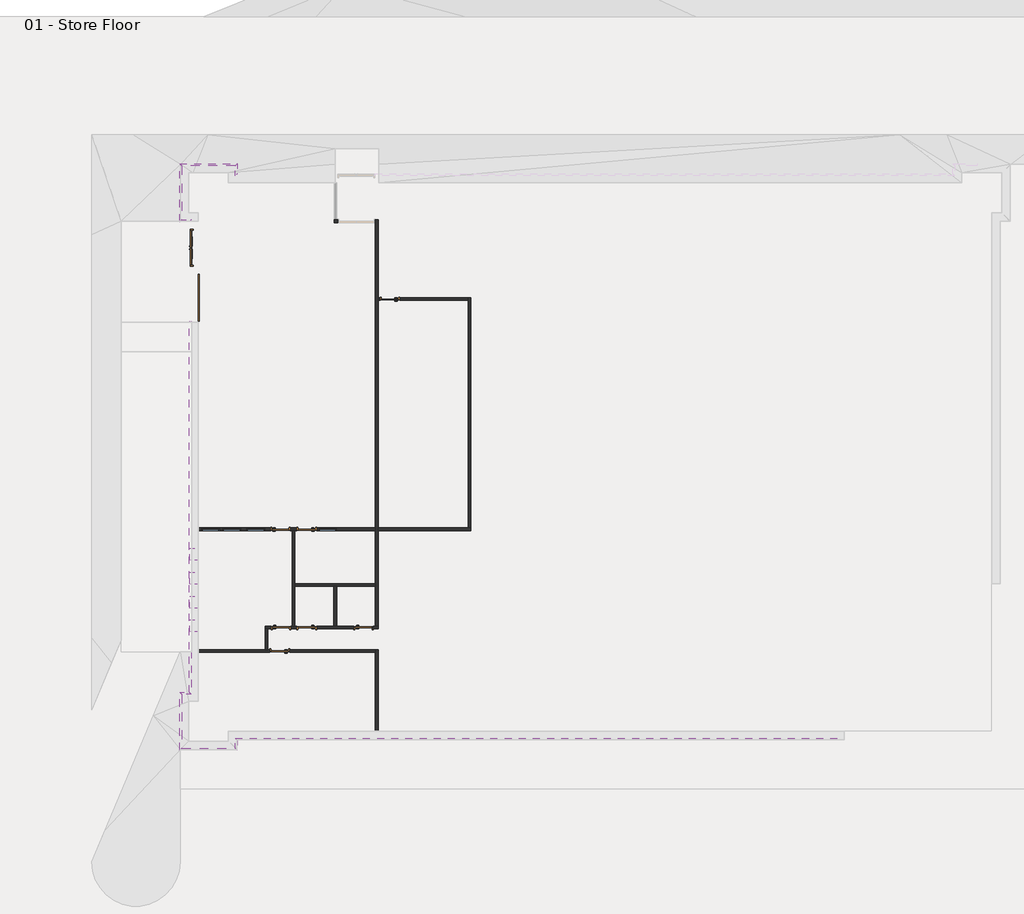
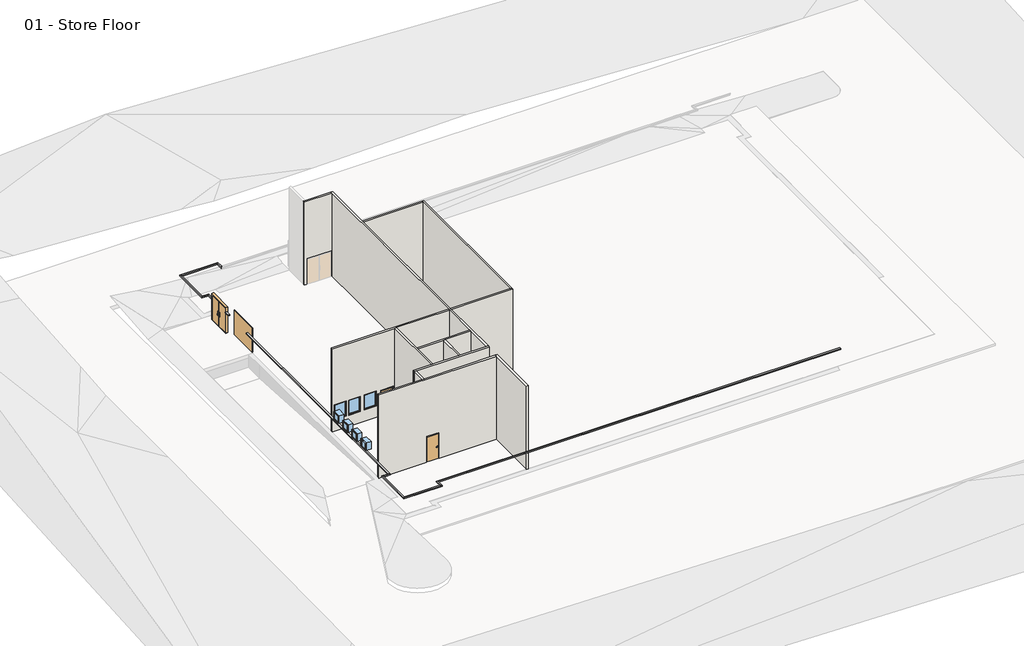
# One storey, part 1 of 2: 12 walls, 10 proxies, 9 doors, 8 windows.
"""IFC4 building model written with IfcOpenShell, lengths in millimetres."""

from ifc_helpers import new_model, si_unit, frame, origin, origin_with_axes, place, context, project, spatial, polyline, outline, extrude, faceted_brep, transform, mapped, element, save
from components import m_door_exterior_double_1800_x_2000mm_bb9cb4d2, m_door_overhead_sectional_2400_x_2000mm_2e2bb5a0, m_door_passage_single_flush_900_x_2000mm_14e2eb9a, m_door_passage_single_flush_900_x_2000mm_70bd3cdf, m_fixed_0915_x_1220mm_bac45195, m_fixed_610_x_610mm_e5dd5360

model = new_model("IFC4")

# Units and contexts
model_context = context("Model", 3, world=origin())
ifc_project = project(units=[si_unit("LENGTHUNIT", "METRE", prefix="MILLI")], contexts=[model_context])

# Site, building, storey
site = spatial("IfcSite", under=ifc_project)
building = spatial("IfcBuilding", under=site)
storey = spatial("IfcBuildingStorey", under=building, Name="01 - Store Floor", Elevation=0.0)

# Proxies
placement = place(None, origin())
element("IfcBuildingElementProxy", 1, Name="Reveals", at=placement, inside=storey, context=model_context, shape_type="SweptSolid", body=[
    extrude(outline(polyline([(10855.5272279, -14331.9313057), (10855.5272279, -14434.4313057), (-20003.9727721, -14434.4313057), (-20106.4727721, -14331.9313057), (10855.5272279, -14331.9313057)])), frame((0.0, 0.0, 1675.0), z_axis=(0.0, 0.0, 1.0), x_axis=(1.0, 0.0, 0.0)), (0.0, 0.0, 1.0), 75.0),
])
element("IfcBuildingElementProxy", 2, Name="Reveals", at=placement, inside=storey, context=model_context, shape_type="SweptSolid", body=[
    extrude(outline(polyline([(-20106.4727721, -14331.9313057), (-20003.9727721, -14434.4313057), (-20003.9727721, -14934.2313057), (-20106.4727721, -14831.7313057), (-20106.4727721, -14331.9313057)])), frame((0.0, 0.0, 1675.0), z_axis=(0.0, 0.0, 1.0), x_axis=(1.0, 0.0, 0.0)), (0.0, 0.0, 1.0), 75.0),
])
element("IfcBuildingElementProxy", 3, Name="Reveals", at=placement, inside=storey, context=model_context, shape_type="SweptSolid", body=[
    extrude(outline(polyline([(-20106.4727721, -14831.7313057), (-20003.9727721, -14934.2313057), (-22946.9727721, -14934.2313057), (-22844.4727721, -14831.7313057), (-20106.4727721, -14831.7313057)])), frame((0.0, 0.0, 1675.0), z_axis=(0.0, 0.0, 1.0), x_axis=(1.0, 0.0, 0.0)), (0.0, 0.0, 1.0), 75.0),
])
element("IfcBuildingElementProxy", 4, Name="Reveals", at=placement, inside=storey, context=model_context, shape_type="SweptSolid", body=[
    extrude(outline(polyline([(-22844.4727721, -14831.7313057), (-22946.9727721, -14934.2313057), (-22946.9727721, -11991.2313057), (-22844.4727721, -12093.7313057), (-22844.4727721, -14831.7313057)])), frame((0.0, 0.0, 1675.0), z_axis=(0.0, 0.0, 1.0), x_axis=(1.0, 0.0, 0.0)), (0.0, 0.0, 1.0), 75.0),
])
element("IfcBuildingElementProxy", 5, Name="Reveals", at=placement, inside=storey, context=model_context, shape_type="SweptSolid", body=[
    extrude(outline(polyline([(-22844.4727721, -12093.7313057), (-22946.9727721, -11991.2313057), (-22446.9727721, -11991.2313057), (-22344.4727721, -12093.7313057), (-22844.4727721, -12093.7313057)])), frame((0.0, 0.0, 1675.0), z_axis=(0.0, 0.0, 1.0), x_axis=(1.0, 0.0, 0.0)), (0.0, 0.0, 1.0), 75.0),
])
element("IfcBuildingElementProxy", 6, Name="Reveals", at=placement, inside=storey, context=model_context, shape_type="SweptSolid", body=[
    extrude(outline(polyline([(-22344.4727721, 11555.0686943), (-22446.9727721, 11555.0686943), (-22446.9727721, 11927.5686943), (-22344.4727721, 12030.0686943), (-22344.4727721, 11555.0686943)])), frame((0.0, 0.0, 1675.0), z_axis=(0.0, 0.0, 1.0), x_axis=(1.0, 0.0, 0.0)), (0.0, 0.0, 1.0), 75.0),
    extrude(outline(polyline([(-22344.4727721, 9255.0686943), (-22446.9727721, 9255.0686943), (-22446.9727721, 9655.0686943), (-22344.4727721, 9655.0686943), (-22344.4727721, 9255.0686943)])), frame((0.0, 0.0, 1675.0), z_axis=(0.0, 0.0, 1.0), x_axis=(1.0, 0.0, 0.0)), (0.0, 0.0, 1.0), 75.0),
    extrude(outline(polyline([(-22344.4727721, -12093.7313057), (-22446.9727721, -11991.2313057), (-22446.9727721, 6855.0686943), (-22344.4727721, 6855.0686943), (-22344.4727721, -12093.7313057)])), frame((0.0, 0.0, 1675.0), z_axis=(0.0, 0.0, 1.0), x_axis=(1.0, 0.0, 0.0)), (0.0, 0.0, 1.0), 75.0),
])
element("IfcBuildingElementProxy", 7, Name="Reveals", at=placement, inside=storey, context=model_context, shape_type="SweptSolid", body=[
    extrude(outline(polyline([(-22344.4727721, 12030.0686943), (-22446.9727721, 11927.5686943), (-22946.9727721, 11927.5686943), (-22844.4727721, 12030.0686943), (-22344.4727721, 12030.0686943)])), frame((0.0, 0.0, 1675.0), z_axis=(0.0, 0.0, 1.0), x_axis=(1.0, 0.0, 0.0)), (0.0, 0.0, 1.0), 75.0),
])
element("IfcBuildingElementProxy", 8, Name="Reveals", at=placement, inside=storey, context=model_context, shape_type="SweptSolid", body=[
    extrude(outline(polyline([(-22844.4727721, 12030.0686943), (-22946.9727721, 11927.5686943), (-22946.9727721, 14870.5686943), (-22844.4727721, 14768.0686943), (-22844.4727721, 12030.0686943)])), frame((0.0, 0.0, 1675.0), z_axis=(0.0, 0.0, 1.0), x_axis=(1.0, 0.0, 0.0)), (0.0, 0.0, 1.0), 75.0),
])
element("IfcBuildingElementProxy", 9, Name="Reveals", at=placement, inside=storey, context=model_context, shape_type="SweptSolid", body=[
    extrude(outline(polyline([(-22844.4727721, 14768.0686943), (-22946.9727721, 14870.5686943), (-20003.9727721, 14870.5686943), (-20106.4727721, 14768.0686943), (-22844.4727721, 14768.0686943)])), frame((0.0, 0.0, 1675.0), z_axis=(0.0, 0.0, 1.0), x_axis=(1.0, 0.0, 0.0)), (0.0, 0.0, 1.0), 75.0),
])
element("IfcBuildingElementProxy", 10, Name="Reveals", at=placement, inside=storey, context=model_context, shape_type="SweptSolid", body=[
    extrude(outline(polyline([(-20106.4727721, 14768.0686943), (-20003.9727721, 14870.5686943), (-20003.9727721, 14370.5686943), (-20106.4727721, 14268.0686943), (-20106.4727721, 14768.0686943)])), frame((0.0, 0.0, 1675.0), z_axis=(0.0, 0.0, 1.0), x_axis=(1.0, 0.0, 0.0)), (0.0, 0.0, 1.0), 75.0),
])

# Doors
m_door_exterior_double_1800_x_2000mm_shape = m_door_exterior_double_1800_x_2000mm_bb9cb4d2(model_context)
element("IfcDoor", 11, ObjectType="M_Door-Exterior-Double : 1800 x 2000mm", at=placement, inside=storey, context=model_context, shape_type="MappedRepresentation", body=[
    mapped(m_door_exterior_double_1800_x_2000mm_shape, transform((-22198.6227721, 10605.0686943, 0.0), x_axis=(0.0, 1.0, 0.0), y_axis=(-1.0, 0.0, 0.0), z_axis=(0.0, 0.0, 1.0))),
])
m_door_overhead_sectional_2400_x_2000mm_shape = m_door_overhead_sectional_2400_x_2000mm_2e2bb5a0(model_context)
element("IfcDoor", 12, ObjectType="M_Door-Overhead-Sectional : 2400 x 2000mm", at=placement, inside=storey, context=model_context, shape_type="MappedRepresentation", body=[
    mapped(m_door_overhead_sectional_2400_x_2000mm_shape, transform((-22204.9727721, 8055.0686943, 0.0), x_axis=(0.0, 1.0, 0.0), y_axis=(-1.0, 0.0, 0.0), z_axis=(0.0, 0.0, 1.0))),
])
m_door_passage_single_flush_900_x_2000mm_shape = m_door_passage_single_flush_900_x_2000mm_14e2eb9a(model_context)
element("IfcDoor", 13, ObjectType="M_Door-Passage-Single-Flush : 900 x 2000mm", at=placement, inside=storey, context=model_context, shape_type="MappedRepresentation", body=[
    mapped(m_door_passage_single_flush_900_x_2000mm_shape, transform((-17819.4727721, -3700.5813057, 0.0), x_axis=(1.0, 0.0, 0.0), y_axis=(0.0, 1.0, 0.0), z_axis=(0.0, 0.0, 1.0))),
])
element("IfcDoor", 14, ObjectType="M_Door-Passage-Single-Flush : 900 x 2000mm", at=placement, inside=storey, context=model_context, shape_type="MappedRepresentation", body=[
    mapped(m_door_passage_single_flush_900_x_2000mm_shape, transform((-16480.9727721, -8713.2813057, 0.0), x_axis=(-1.0, 0.0, 0.0), y_axis=(0.0, -1.0, 0.0), z_axis=(0.0, 0.0, 1.0))),
])
m_door_passage_single_flush_900_x_2000mm_2_shape = m_door_passage_single_flush_900_x_2000mm_70bd3cdf(model_context)
element("IfcDoor", 15, ObjectType="M_Door-Passage-Single-Flush : 900 x 2000mm", at=placement, inside=storey, context=model_context, shape_type="MappedRepresentation", body=[
    mapped(m_door_passage_single_flush_900_x_2000mm_2_shape, transform((-16480.9727721, -3700.5813057, 0.0), x_axis=(-1.0, 0.0, 0.0), y_axis=(0.0, -1.0, 0.0), z_axis=(0.0, 0.0, 1.0))),
])
element("IfcDoor", 16, ObjectType="M_Door-Passage-Single-Flush : 900 x 2000mm", at=placement, inside=storey, context=model_context, shape_type="MappedRepresentation", body=[
    mapped(m_door_passage_single_flush_900_x_2000mm_2_shape, transform((-13588.7227721, -8713.2813057, 0.0), x_axis=(1.0, 0.0, 0.0), y_axis=(0.0, 1.0, 0.0), z_axis=(0.0, 0.0, 1.0))),
])
element("IfcDoor", 17, ObjectType="M_Door-Passage-Single-Flush : 900 x 2000mm", at=placement, inside=storey, context=model_context, shape_type="MappedRepresentation", body=[
    mapped(m_door_passage_single_flush_900_x_2000mm_2_shape, transform((-17795.5977721, -8713.2813057, 0.0), x_axis=(1.0, 0.0, 0.0), y_axis=(0.0, 1.0, 0.0), z_axis=(0.0, 0.0, 1.0))),
])
element("IfcDoor", 18, ObjectType="M_Door-Passage-Single-Flush : 900 x 2000mm", at=placement, inside=storey, context=model_context, shape_type="MappedRepresentation", body=[
    mapped(m_door_passage_single_flush_900_x_2000mm_2_shape, transform((-17850.2227721, -9889.0813057, 0.0), x_axis=(-1.0, 0.0, 0.0), y_axis=(0.0, -1.0, 0.0), z_axis=(0.0, 0.0, 1.0))),
])
element("IfcDoor", 19, ObjectType="M_Door-Passage-Single-Flush : 900 x 2000mm", at=placement, inside=storey, context=model_context, shape_type="MappedRepresentation", body=[
    mapped(m_door_passage_single_flush_900_x_2000mm_2_shape, transform((-12250.2227721, 7999.4186943, 0.0), x_axis=(-1.0, 0.0, 0.0), y_axis=(0.0, -1.0, 0.0), z_axis=(0.0, 0.0, 1.0))),
])

# Walls
element("IfcWall", 20, ObjectType="Interior - 138mm Partition (1-hr)", at=placement, inside=storey, context=model_context, shape_type="Brep", body=[
    faceted_brep([(-12850.2227721, -13977.9313057, 0.0), (-12850.2227721, -9826.1813057, 0.0), (-12850.2227721, -9826.1813057, 6750.0), (-12850.2227721, -13977.9313057, 6750.0), (-12988.7227721, -13977.9313057, 0.0), (-12988.7227721, -13977.9313057, 6750.0), (-12988.7227721, -9964.6813057, 6750.0), (-12988.7227721, -9826.1813057, 6750.0), (-12988.7227721, -9826.1813057, 0.0), (-12988.7227721, -9964.6813057, 0.0)], [[[0, 1, 2, 3]], [[4, 5, 6, 7, 8, 9]], [[1, 0, 4, 9, 8]], [[0, 3, 5, 4]], [[2, 1, 8, 7]], [[3, 2, 7, 6, 5]]]),
])
element("IfcWall", 21, ObjectType="Interior - 138mm Partition (1-hr)", at=placement, inside=storey, context=model_context, shape_type="Brep", body=[
    faceted_brep([(-12988.7227721, 12024.3186943, 6750.0), (-12988.7227721, 12024.3186943, 0.0), (-13009.9477721, 12024.3186943, 0.0), (-13009.9477721, 12024.3186943, 2100.0), (-14909.9477721, 12024.3186943, 2100.0), (-14909.9477721, 12024.3186943, 0.0), (-14950.2227721, 12024.3186943, 0.0), (-15088.7227721, 12024.3186943, 0.0), (-15088.7227721, 12024.3186943, 6750.0), (-14950.2227721, 12024.3186943, 6750.0), (-12988.7227721, 11885.8186943, 0.0), (-12988.7227721, 11885.8186943, 6750.0), (-15088.7227721, 11885.8186943, 6750.0), (-15088.7227721, 11885.8186943, 0.0), (-14909.9477721, 11885.8186943, 0.0), (-14909.9477721, 11885.8186943, 2100.0), (-13009.9477721, 11885.8186943, 2100.0), (-13009.9477721, 11885.8186943, 0.0)], [[[0, 1, 2, 3, 4, 5, 6, 7, 8, 9]], [[10, 11, 12, 13, 14, 15, 16, 17]], [[1, 10, 17, 2]], [[13, 7, 6, 5, 14]], [[1, 0, 11, 10]], [[8, 7, 13, 12]], [[0, 9, 8, 12, 11]], [[4, 15, 14, 5]], [[15, 4, 3, 16]], [[16, 3, 2, 17]]]),
])
element("IfcWall", 22, ObjectType="Interior - 138mm Partition (1-hr)", at=placement, inside=storey, context=model_context, shape_type="Brep", body=[
    faceted_brep([(-18588.7227721, -8637.6813057, 0.0), (-18588.7227721, -8637.6813057, 6750.0), (-17219.4727721, -8637.6813057, 6750.0), (-17080.9727721, -8637.6813057, 6750.0), (-15104.0977721, -8637.6813057, 6750.0), (-14965.5977721, -8637.6813057, 6750.0), (-12988.7227721, -8637.6813057, 6750.0), (-12850.2227721, -8637.6813057, 6750.0), (-12850.2227721, -8637.6813057, 0.0), (-12988.7227721, -8637.6813057, 0.0), (-13088.7227721, -8637.6813057, 0.0), (-13088.7227721, -8637.6813057, 2100.0), (-14088.7227721, -8637.6813057, 2100.0), (-14088.7227721, -8637.6813057, 0.0), (-14965.5977721, -8637.6813057, 0.0), (-15104.0977721, -8637.6813057, 0.0), (-15980.9727721, -8637.6813057, 0.0), (-15980.9727721, -8637.6813057, 2100.0), (-16980.9727721, -8637.6813057, 2100.0), (-16980.9727721, -8637.6813057, 0.0), (-17080.9727721, -8637.6813057, 0.0), (-17219.4727721, -8637.6813057, 0.0), (-17295.5977721, -8637.6813057, 0.0), (-17295.5977721, -8637.6813057, 2100.0), (-18295.5977721, -8637.6813057, 2100.0), (-18295.5977721, -8637.6813057, 0.0), (-18588.7227721, -8776.1813057, 6750.0), (-18588.7227721, -8776.1813057, 0.0), (-18450.2227721, -8776.1813057, 0.0), (-18295.5977721, -8776.1813057, 0.0), (-18295.5977721, -8776.1813057, 2100.0), (-17295.5977721, -8776.1813057, 2100.0), (-17295.5977721, -8776.1813057, 0.0), (-16980.9727721, -8776.1813057, 0.0), (-16980.9727721, -8776.1813057, 2100.0), (-15980.9727721, -8776.1813057, 2100.0), (-15980.9727721, -8776.1813057, 0.0), (-14088.7227721, -8776.1813057, 0.0), (-14088.7227721, -8776.1813057, 2100.0), (-13088.7227721, -8776.1813057, 2100.0), (-13088.7227721, -8776.1813057, 0.0), (-12850.2227721, -8776.1813057, 0.0), (-12850.2227721, -8776.1813057, 6750.0), (-18450.2227721, -8776.1813057, 6750.0)], [[[0, 1, 2, 3, 4, 5, 6, 7, 8, 9, 10, 11, 12, 13, 14, 15, 16, 17, 18, 19, 20, 21, 22, 23, 24, 25]], [[26, 27, 28, 29, 30, 31, 32, 33, 34, 35, 36, 37, 38, 39, 40, 41, 42, 43]], [[27, 0, 25, 29, 28]], [[8, 41, 40, 10, 9]], [[19, 33, 32, 22, 21, 20]], [[36, 16, 15, 14, 13, 37]], [[1, 0, 27, 26]], [[8, 7, 42, 41]], [[7, 6, 5, 4, 3, 2, 1, 26, 43, 42]], [[18, 34, 33, 19]], [[34, 18, 17, 35]], [[35, 17, 16, 36]], [[39, 11, 10, 40]], [[11, 39, 38, 12]], [[12, 38, 37, 13]], [[31, 23, 22, 32]], [[23, 31, 30, 24]], [[24, 30, 29, 25]]]),
])
element("IfcWall", 23, ObjectType="Interior - 138mm Partition (1-hr)", at=placement, inside=storey, context=model_context, shape_type="SweptSolid", body=[
    extrude(outline(polyline([(-18588.7227721, -9826.1813057), (-18588.7227721, -8776.1813057), (-18450.2227721, -8776.1813057), (-18450.2227721, -9826.1813057), (-18588.7227721, -9826.1813057)])), origin_with_axes(), (0.0, 0.0, 1.0), 6750.0),
])
element("IfcWall", 24, ObjectType="Interior - 138mm Partition (1-hr)", at=placement, inside=storey, context=model_context, shape_type="Brep", body=[
    faceted_brep([(-21990.4727721, -9964.6813057, 6750.0), (-21990.4727721, -9964.6813057, 0.0), (-18350.2227721, -9964.6813057, 0.0), (-18350.2227721, -9964.6813057, 2100.0), (-17350.2227721, -9964.6813057, 2100.0), (-17350.2227721, -9964.6813057, 0.0), (-12988.7227721, -9964.6813057, 0.0), (-12988.7227721, -9964.6813057, 6750.0), (-21990.4727721, -9826.1813057, 0.0), (-21990.4727721, -9826.1813057, 6750.0), (-18588.7227721, -9826.1813057, 6750.0), (-18450.2227721, -9826.1813057, 6750.0), (-12988.7227721, -9826.1813057, 6750.0), (-12988.7227721, -9826.1813057, 0.0), (-17350.2227721, -9826.1813057, 0.0), (-17350.2227721, -9826.1813057, 2100.0), (-18350.2227721, -9826.1813057, 2100.0), (-18350.2227721, -9826.1813057, 0.0), (-18450.2227721, -9826.1813057, 0.0), (-18588.7227721, -9826.1813057, 0.0)], [[[0, 1, 2, 3, 4, 5, 6, 7]], [[8, 9, 10, 11, 12, 13, 14, 15, 16, 17, 18, 19]], [[1, 8, 19, 18, 17, 2]], [[13, 6, 5, 14]], [[1, 0, 9, 8]], [[7, 6, 13, 12]], [[0, 7, 12, 11, 10, 9]], [[16, 3, 2, 17]], [[3, 16, 15, 4]], [[4, 15, 14, 5]]]),
])
element("IfcWall", 25, ObjectType="Interior - 138mm Partition (1-hr)", at=placement, inside=storey, context=model_context, shape_type="Brep", body=[
    faceted_brep([(-17080.9727721, -8637.6813057, 0.0), (-17080.9727721, -6606.9313057, 0.0), (-17080.9727721, -6468.4313057, 0.0), (-17080.9727721, -3776.1813057, 0.0), (-17080.9727721, -3776.1813057, 6750.0), (-17080.9727721, -6468.4313057, 6750.0), (-17080.9727721, -6606.9313057, 6750.0), (-17080.9727721, -8637.6813057, 6750.0), (-17219.4727721, -8637.6813057, 0.0), (-17219.4727721, -8637.6813057, 6750.0), (-17219.4727721, -3776.1813057, 6750.0), (-17219.4727721, -3776.1813057, 0.0)], [[[0, 1, 2, 3, 4, 5, 6, 7]], [[8, 9, 10, 11]], [[3, 2, 1, 0, 8, 11]], [[0, 7, 9, 8]], [[4, 3, 11, 10]], [[7, 6, 5, 4, 10, 9]]]),
])
element("IfcWall", 26, ObjectType="Interior - 138mm Partition (1-hr)", at=placement, inside=storey, context=model_context, shape_type="Brep", body=[
    faceted_brep([(-21990.4727721, -3637.6813057, 0.0), (-21990.4727721, -3637.6813057, 6750.0), (-12988.7227721, -3637.6813057, 6750.0), (-12988.7227721, -3637.6813057, 0.0), (-15980.9727721, -3637.6813057, 0.0), (-15980.9727721, -3637.6813057, 2100.0), (-16980.9727721, -3637.6813057, 2100.0), (-16980.9727721, -3637.6813057, 0.0), (-17319.4727721, -3637.6813057, 0.0), (-17319.4727721, -3637.6813057, 2100.0), (-18319.4727721, -3637.6813057, 2100.0), (-18319.4727721, -3637.6813057, 0.0), (-15880.9727721, -3637.6813057, 2135.0), (-15880.9727721, -3637.6813057, 915.0), (-14965.9727721, -3637.6813057, 915.0), (-14965.9727721, -3637.6813057, 2135.0), (-19534.4727721, -3637.6813057, 2135.0), (-19534.4727721, -3637.6813057, 915.0), (-18619.4727721, -3637.6813057, 915.0), (-18619.4727721, -3637.6813057, 2135.0), (-20749.4727721, -3637.6813057, 2135.0), (-20749.4727721, -3637.6813057, 915.0), (-19834.4727721, -3637.6813057, 915.0), (-19834.4727721, -3637.6813057, 2135.0), (-21827.4727721, -3637.6813057, 2135.0), (-21827.4727721, -3637.6813057, 915.0), (-20912.4727721, -3637.6813057, 915.0), (-20912.4727721, -3637.6813057, 2135.0), (-21990.4727721, -3776.1813057, 6750.0), (-21990.4727721, -3776.1813057, 0.0), (-18319.4727721, -3776.1813057, 0.0), (-18319.4727721, -3776.1813057, 2100.0), (-17319.4727721, -3776.1813057, 2100.0), (-17319.4727721, -3776.1813057, 0.0), (-17219.4727721, -3776.1813057, 0.0), (-17080.9727721, -3776.1813057, 0.0), (-16980.9727721, -3776.1813057, 0.0), (-16980.9727721, -3776.1813057, 2100.0), (-15980.9727721, -3776.1813057, 2100.0), (-15980.9727721, -3776.1813057, 0.0), (-12988.7227721, -3776.1813057, 0.0), (-12988.7227721, -3776.1813057, 6750.0), (-17080.9727721, -3776.1813057, 6750.0), (-17219.4727721, -3776.1813057, 6750.0), (-15880.9727721, -3776.1813057, 915.0), (-15880.9727721, -3776.1813057, 2135.0), (-14965.9727721, -3776.1813057, 2135.0), (-14965.9727721, -3776.1813057, 915.0), (-19534.4727721, -3776.1813057, 915.0), (-19534.4727721, -3776.1813057, 2135.0), (-18619.4727721, -3776.1813057, 2135.0), (-18619.4727721, -3776.1813057, 915.0), (-20749.4727721, -3776.1813057, 915.0), (-20749.4727721, -3776.1813057, 2135.0), (-19834.4727721, -3776.1813057, 2135.0), (-19834.4727721, -3776.1813057, 915.0), (-21827.4727721, -3776.1813057, 915.0), (-21827.4727721, -3776.1813057, 2135.0), (-20912.4727721, -3776.1813057, 2135.0), (-20912.4727721, -3776.1813057, 915.0)], [[[0, 1, 2, 3, 4, 5, 6, 7, 8, 9, 10, 11], [12, 13, 14, 15], [16, 17, 18, 19], [20, 21, 22, 23], [24, 25, 26, 27]], [[28, 29, 30, 31, 32, 33, 34, 35, 36, 37, 38, 39, 40, 41, 42, 43], [44, 45, 46, 47], [48, 49, 50, 51], [52, 53, 54, 55], [56, 57, 58, 59]], [[29, 0, 11, 30]], [[33, 8, 7, 36, 35, 34]], [[39, 4, 3, 40]], [[1, 0, 29, 28]], [[3, 2, 41, 40]], [[1, 28, 43, 42, 41, 2]], [[32, 9, 8, 33]], [[9, 32, 31, 10]], [[10, 31, 30, 11]], [[6, 37, 36, 7]], [[37, 6, 5, 38]], [[38, 5, 4, 39]], [[45, 44, 13, 12]], [[46, 45, 12, 15]], [[47, 46, 15, 14]], [[44, 47, 14, 13]], [[49, 48, 17, 16]], [[50, 49, 16, 19]], [[51, 50, 19, 18]], [[48, 51, 18, 17]], [[53, 52, 21, 20]], [[54, 53, 20, 23]], [[55, 54, 23, 22]], [[52, 55, 22, 21]], [[57, 56, 25, 24]], [[58, 57, 24, 27]], [[59, 58, 27, 26]], [[56, 59, 26, 25]]]),
    faceted_brep([(-8135.7227721, -3637.6813057, 6750.0), (-8135.7227721, -3637.6813057, 0.0), (-8274.2227721, -3637.6813057, 0.0), (-12850.2227721, -3637.6813057, 0.0), (-12850.2227721, -3637.6813057, 6750.0), (-8274.2227721, -3637.6813057, 6750.0), (-8135.7227721, -3776.1813057, 0.0), (-8135.7227721, -3776.1813057, 6750.0), (-12850.2227721, -3776.1813057, 6750.0), (-12850.2227721, -3776.1813057, 0.0)], [[[0, 1, 2, 3, 4, 5]], [[6, 7, 8, 9]], [[1, 6, 9, 3, 2]], [[1, 0, 7, 6]], [[4, 3, 9, 8]], [[7, 0, 5, 4, 8]]]),
])
element("IfcWall", 27, ObjectType="Interior - 138mm Partition (1-hr)", at=placement, inside=storey, context=model_context, shape_type="Brep", body=[
    faceted_brep([(-8135.7227721, -3637.6813057, 0.0), (-8135.7227721, 8062.3186943, 0.0), (-8135.7227721, 8062.3186943, 6750.0), (-8135.7227721, -3637.6813057, 6750.0), (-8274.2227721, -3637.6813057, 0.0), (-8274.2227721, -3637.6813057, 6750.0), (-8274.2227721, 7923.8186943, 6750.0), (-8274.2227721, 8062.3186943, 6750.0), (-8274.2227721, 8062.3186943, 0.0), (-8274.2227721, 7923.8186943, 0.0)], [[[0, 1, 2, 3]], [[4, 5, 6, 7, 8, 9]], [[1, 0, 4, 9, 8]], [[0, 3, 5, 4]], [[2, 1, 8, 7]], [[3, 2, 7, 6, 5]]]),
])
element("IfcWall", 28, ObjectType="Interior - 138mm Partition (1-hr)", at=placement, inside=storey, context=model_context, shape_type="SweptSolid", body=[
    extrude(outline(polyline([(0.0, -8274.2227721), (6750.0, -8274.2227721), (6750.0, -12850.2227721), (0.0, -12850.2227721), (0.0, -12750.2227721), (2100.0, -12750.2227721), (2100.0, -11750.2227721), (0.0, -11750.2227721), (0.0, -8274.2227721)])), frame((0.0, 7923.8186943, 0.0), z_axis=(0.0, 1.0, 0.0), x_axis=(0.0, 0.0, 1.0)), (0.0, 0.0, 1.0), 138.5),
])
element("IfcWall", 29, ObjectType="Interior - 138mm Partition (1-hr)", at=placement, inside=storey, context=model_context, shape_type="Brep", body=[
    faceted_brep([(-12988.7227721, -6468.4313057, 0.0), (-17080.9727721, -6468.4313057, 0.0), (-17080.9727721, -6468.4313057, 6750.0), (-12988.7227721, -6468.4313057, 6750.0), (-12988.7227721, -6606.9313057, 0.0), (-12988.7227721, -6606.9313057, 6750.0), (-14965.5977721, -6606.9313057, 6750.0), (-15104.0977721, -6606.9313057, 6750.0), (-17080.9727721, -6606.9313057, 6750.0), (-17080.9727721, -6606.9313057, 0.0), (-15104.0977721, -6606.9313057, 0.0), (-14965.5977721, -6606.9313057, 0.0)], [[[0, 1, 2, 3]], [[4, 5, 6, 7, 8, 9, 10, 11]], [[1, 0, 4, 11, 10, 9]], [[0, 3, 5, 4]], [[2, 1, 9, 8]], [[3, 2, 8, 7, 6, 5]]]),
])
element("IfcWall", 30, ObjectType="Interior - 138mm Partition (1-hr)", at=placement, inside=storey, context=model_context, shape_type="SweptSolid", body=[
    extrude(outline(polyline([(-15104.0977721, -8637.6813057), (-15104.0977721, -6606.9313057), (-14965.5977721, -6606.9313057), (-14965.5977721, -8637.6813057), (-15104.0977721, -8637.6813057)])), origin_with_axes(), (0.0, 0.0, 1.0), 6750.0),
])
element("IfcWall", 31, ObjectType="Interior - 138mm Partition (1-hr)", at=placement, inside=storey, context=model_context, shape_type="Brep", body=[
    faceted_brep([(-12850.2227721, -8637.6813057, 0.0), (-12850.2227721, -3776.1813057, 0.0), (-12850.2227721, -3637.6813057, 0.0), (-12850.2227721, 7923.8186943, 0.0), (-12850.2227721, 8062.3186943, 0.0), (-12850.2227721, 12024.3186943, 0.0), (-12850.2227721, 12024.3186943, 6750.0), (-12850.2227721, 8062.3186943, 6750.0), (-12850.2227721, 7923.8186943, 6750.0), (-12850.2227721, -3637.6813057, 6750.0), (-12850.2227721, -3776.1813057, 6750.0), (-12850.2227721, -8637.6813057, 6750.0), (-12988.7227721, -8637.6813057, 0.0), (-12988.7227721, -8637.6813057, 6750.0), (-12988.7227721, -6606.9313057, 6750.0), (-12988.7227721, -6468.4313057, 6750.0), (-12988.7227721, -3776.1813057, 6750.0), (-12988.7227721, -3637.6813057, 6750.0), (-12988.7227721, 11885.8186943, 6750.0), (-12988.7227721, 12024.3186943, 6750.0), (-12988.7227721, 12024.3186943, 0.0), (-12988.7227721, 11885.8186943, 0.0), (-12988.7227721, -3637.6813057, 0.0), (-12988.7227721, -3776.1813057, 0.0), (-12988.7227721, -6468.4313057, 0.0), (-12988.7227721, -6606.9313057, 0.0)], [[[0, 1, 2, 3, 4, 5, 6, 7, 8, 9, 10, 11]], [[12, 13, 14, 15, 16, 17, 18, 19, 20, 21, 22, 23, 24, 25]], [[5, 4, 3, 2, 1, 0, 12, 25, 24, 23, 22, 21, 20]], [[6, 5, 20, 19]], [[0, 11, 13, 12]], [[11, 10, 9, 8, 7, 6, 19, 18, 17, 16, 15, 14, 13]]]),
])

# Windows
m_fixed_0915_x_1220mm_shape = m_fixed_0915_x_1220mm_bac45195(model_context)
element("IfcWindow", 32, ObjectType="M_Fixed : 0915 x 1220mm", at=placement, inside=storey, context=model_context, shape_type="MappedRepresentation", body=[
    mapped(m_fixed_0915_x_1220mm_shape, transform((-15423.4727721, -3719.9313057, 0.0), x_axis=(1.0, 0.0, 0.0), y_axis=(0.0, 1.0, 0.0), z_axis=(0.0, 0.0, 1.0))),
])
element("IfcWindow", 33, ObjectType="M_Fixed : 0915 x 1220mm", at=placement, inside=storey, context=model_context, shape_type="MappedRepresentation", body=[
    mapped(m_fixed_0915_x_1220mm_shape, transform((-19076.9727721, -3719.9313057, 0.0), x_axis=(1.0, 0.0, 0.0), y_axis=(0.0, 1.0, 0.0), z_axis=(0.0, 0.0, 1.0))),
])
element("IfcWindow", 34, ObjectType="M_Fixed : 0915 x 1220mm", at=placement, inside=storey, context=model_context, shape_type="MappedRepresentation", body=[
    mapped(m_fixed_0915_x_1220mm_shape, transform((-20291.9727721, -3719.9313057, 0.0), x_axis=(1.0, 0.0, 0.0), y_axis=(0.0, 1.0, 0.0), z_axis=(0.0, 0.0, 1.0))),
])
element("IfcWindow", 35, ObjectType="M_Fixed : 0915 x 1220mm", at=placement, inside=storey, context=model_context, shape_type="MappedRepresentation", body=[
    mapped(m_fixed_0915_x_1220mm_shape, transform((-21369.9727721, -3719.9313057, 0.0), x_axis=(1.0, 0.0, 0.0), y_axis=(0.0, 1.0, 0.0), z_axis=(0.0, 0.0, 1.0))),
])
m_fixed_610_x_610mm_shape = m_fixed_610_x_610mm_e5dd5360(model_context)
element("IfcWindow", 36, ObjectType="M_Fixed : 610 x 610mm", at=placement, inside=storey, context=model_context, shape_type="MappedRepresentation", body=[
    mapped(m_fixed_610_x_610mm_shape, transform((-22191.9727721, -4986.1813057, 835.0), x_axis=(0.0, 1.0, 0.0), y_axis=(-1.0, 0.0, 0.0), z_axis=(0.0, 0.0, 1.0))),
])
element("IfcWindow", 37, ObjectType="M_Fixed : 610 x 610mm", at=placement, inside=storey, context=model_context, shape_type="MappedRepresentation", body=[
    mapped(m_fixed_610_x_610mm_shape, transform((-22191.9727721, -6196.1813057, 835.0), x_axis=(0.0, 1.0, 0.0), y_axis=(-1.0, 0.0, 0.0), z_axis=(0.0, 0.0, 1.0))),
])
element("IfcWindow", 38, ObjectType="M_Fixed : 610 x 610mm", at=placement, inside=storey, context=model_context, shape_type="MappedRepresentation", body=[
    mapped(m_fixed_610_x_610mm_shape, transform((-22191.9727721, -7406.1813057, 835.0), x_axis=(0.0, 1.0, 0.0), y_axis=(-1.0, 0.0, 0.0), z_axis=(0.0, 0.0, 1.0))),
])
element("IfcWindow", 39, ObjectType="M_Fixed : 610 x 610mm", at=placement, inside=storey, context=model_context, shape_type="MappedRepresentation", body=[
    mapped(m_fixed_610_x_610mm_shape, transform((-22191.9727721, -8616.1813057, 835.0), x_axis=(0.0, 1.0, 0.0), y_axis=(-1.0, 0.0, 0.0), z_axis=(0.0, 0.0, 1.0))),
])

save(model, "model.ifc")
